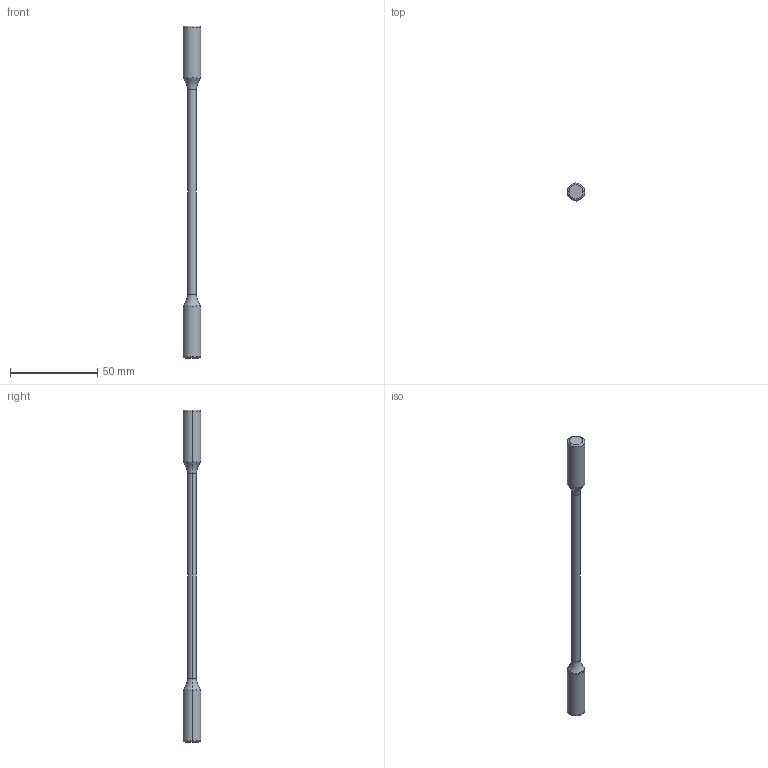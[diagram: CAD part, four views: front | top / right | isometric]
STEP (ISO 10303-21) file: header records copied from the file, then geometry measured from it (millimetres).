
FILE_DESCRIPTION (( 'STEP AP203' ), '1' );
FILE_NAME ('Separator_lever.step', '2026-06-05T03:32:59', ( '' ), ( '' ), 'SwSTEP 2.0', 'SolidWorks 2024', '' );
FILE_SCHEMA (( 'CONFIG_CONTROL_DESIGN' ));
Length unit declared in the file: millimetre
Products named in the file (1): Separator_lever
Bounding box: 10 x 10 x 190 mm (x, y, z)
Volume: 7462.4 mm3; surface area: 4150.4 mm2
Topology: 1 solids, 1 shells, 20 faces, 38 edges, 20 vertices
Faces by surface type: torus 12, cylinder 6, plane 2
Entity records: 583 total; most frequent: DIRECTION 112, CARTESIAN_POINT 79, ORIENTED_EDGE 76, AXIS2_PLACEMENT_3D 53, EDGE_CURVE 38, CIRCLE 32, VERTEX_POINT 20, ADVANCED_FACE 20
